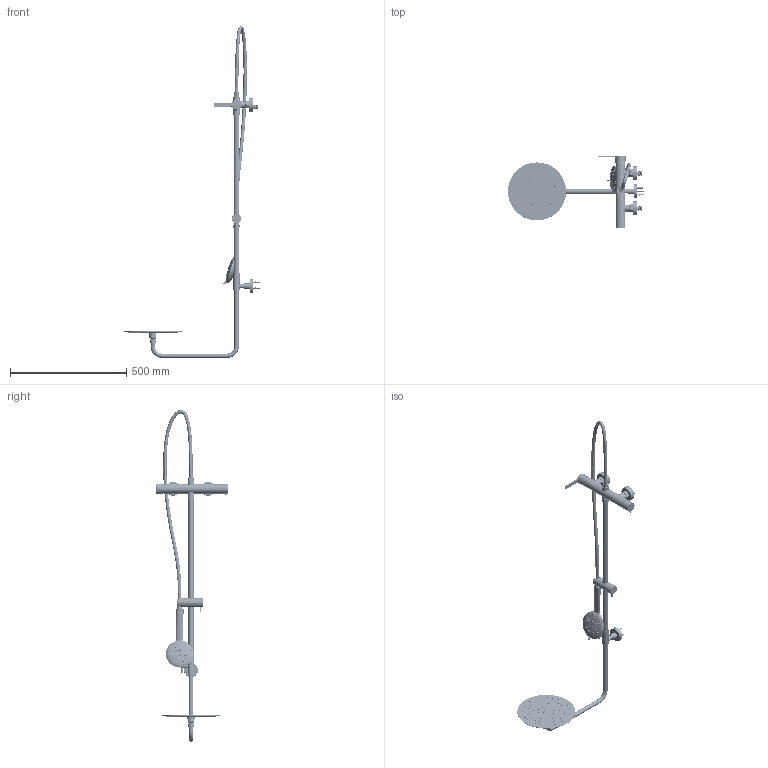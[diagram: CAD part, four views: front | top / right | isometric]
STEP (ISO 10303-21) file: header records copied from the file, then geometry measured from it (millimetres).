
FILE_DESCRIPTION((''),'2;1');
FILE_NAME('1306800A_ASM','2022-12-20T',('Administrator'),(''),'PRO/ENGINEER BY PARAMETRIC TECHNOLOGY CORPORATION, 2015240','PRO/ENGINEER BY PARAMETRIC TECHNOLOGY CORPORATION, 2015240','');
FILE_SCHEMA(('CONFIG_CONTROL_DESIGN'));
Length unit declared in the file: millimetre
Products named in the file (53): 513068-01-222A_AF0; 513068-01-322A_AF0; 513068-01-422A; 513068-01-722A_AF0; 513068-01-622A; 513068-01-522A; 513068-01-322; 513068-01-123A_ASM; 512052-01-422A; 513068-0100A_ASM; 60701541; 61302922; 61803500; 60722841; 60933500; 61102012; 61800800; 61614941; 7609114-100; 7609114-200; 61100112; 518084-0322; 61300700; 61500042; 61301300; 7656057-0100; 61316312; 7656038-0300; 7656038-0400; 7656038-0641; 7656057-0200; 61502642; 7656069-0600; 60202600; 61626141; 65605712_ASM; 7654000-1100; 7654045-0112; 61600942; 65404999_ASM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
Assembly tree (69 placements, depth 4):
  1306800A_ASM
    513068-0100A_ASM
      513068-01-123A_ASM
        513068-01-222A_AF0
        513068-01-322A_AF0
        513068-01-422A  x2
        513068-01-722A_AF0
        513068-01-622A
        513068-01-522A
        513068-01-322
      512052-01-422A  x2
    60701541
    61302922
    61803500
    60722841
    60933500
    61102012
    61800800
    61614941
    7609114-100
    7609114-200
    61100112
    518084-0322
    61300700  x2
    61500042  x2
    61301300  x2
    65605712_ASM
      7656057-0100
      61316312
      61500042
      7656038-0300
      7656038-0400
      7656038-0641
      7656057-0200
      61502642  x4
      7656069-0600
      60202600
      61626141
    65404999_ASM
      7654000-1100  x2
      7654045-0112  x2
      61600942  x2
    65403600_ASM
      7654036-0322
      7654036-0100
      7654036-0441
      61105312  x2
      61100212  x3
      61301141  x3
      7654036-0200
      7654036-0542
    60111200
    60188200
    61701500
Bounding box: 586.5 x 307.5 x 1430.05 mm (x, y, z)
Volume: 1140990.3 mm3; surface area: 808689.7 mm2
Topology: 69 solids, 114 shells, 5982 faces, 15208 edges, 9675 vertices
Faces by surface type: plane 2415, cylinder 1599, bspline 704, cone 653, torus 538, sphere 40, revolution 31, extrusion 2
Entity records: 230485 total; most frequent: CARTESIAN_POINT 106565, ORIENTED_EDGE 26258, DIRECTION 24244, EDGE_CURVE 13200, AXIS2_PLACEMENT_3D 9006, VERTEX_POINT 8440, VECTOR 6201, LINE 6199
